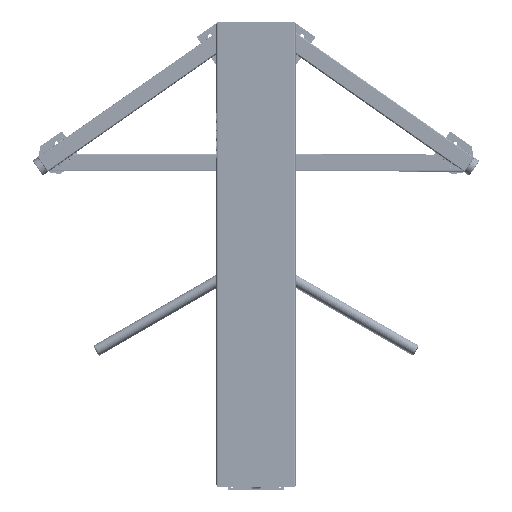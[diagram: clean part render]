
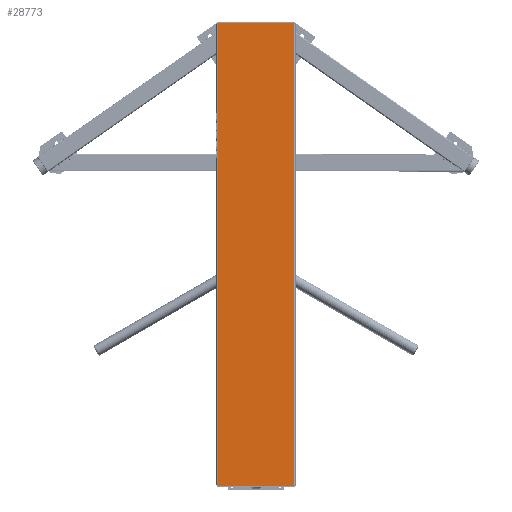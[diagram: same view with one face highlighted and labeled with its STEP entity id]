
A CAD part, top view. The second image highlights one B-rep face of the part: STEP entity #28773.
In plain terms, the highlighted planar face has unit normal (0, 0, 1) as drawn and (0, 1, 0) by its records, which use the part's own axes.
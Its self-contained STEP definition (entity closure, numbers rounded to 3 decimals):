
#5474=ORIENTED_EDGE('',*,*,#12029,.F.);
#5475=ORIENTED_EDGE('',*,*,#12030,.F.);
#5476=ORIENTED_EDGE('',*,*,#12031,.T.);
#5477=ORIENTED_EDGE('',*,*,#12032,.T.);
#12029=EDGE_CURVE('',#15506,#15507,#18160,.T.);
#12030=EDGE_CURVE('',#15508,#15506,#18161,.T.);
#12031=EDGE_CURVE('',#15508,#15509,#18162,.T.);
#12032=EDGE_CURVE('',#15509,#15507,#18163,.T.);
#15506=VERTEX_POINT('',#46688);
#15507=VERTEX_POINT('',#46689);
#15508=VERTEX_POINT('',#46691);
#15509=VERTEX_POINT('',#46693);
#18160=LINE('',#46687,#20401);
#18161=LINE('',#46690,#20402);
#18162=LINE('',#46692,#20403);
#18163=LINE('',#46694,#20404);
#20401=VECTOR('',#37992,1000.);
#20402=VECTOR('',#37993,1000.);
#20403=VECTOR('',#37994,1000.);
#20404=VECTOR('',#37995,1000.);
#22595=EDGE_LOOP('',(#5474,#5475,#5476,#5477));
#25348=FACE_BOUND('',#22595,.T.);
#27718=PLANE('',#33404);
#28773=ADVANCED_FACE('',(#25348),#27718,.T.);
#33404=AXIS2_PLACEMENT_3D('',#46686,#37990,#37991);
#37990=DIRECTION('',(0.,1.,0.));
#37991=DIRECTION('',(-1.,0.,0.));
#37992=DIRECTION('',(1.,0.,0.));
#37993=DIRECTION('',(0.,0.,-1.));
#37994=DIRECTION('',(1.,0.,0.));
#37995=DIRECTION('',(0.,0.,-1.));
#46686=CARTESIAN_POINT('',(-134.,0.,818.));
#46687=CARTESIAN_POINT('',(-134.,0.,-818.));
#46688=CARTESIAN_POINT('',(-134.,0.,-818.));
#46689=CARTESIAN_POINT('',(134.,0.,-818.));
#46690=CARTESIAN_POINT('',(-134.,0.,818.));
#46691=CARTESIAN_POINT('',(-134.,0.,818.));
#46692=CARTESIAN_POINT('',(-134.,0.,818.));
#46693=CARTESIAN_POINT('',(134.,0.,818.));
#46694=CARTESIAN_POINT('',(134.,0.,818.));
